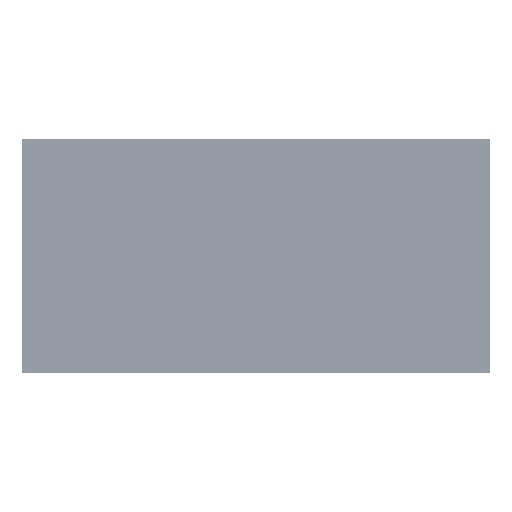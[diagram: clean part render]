
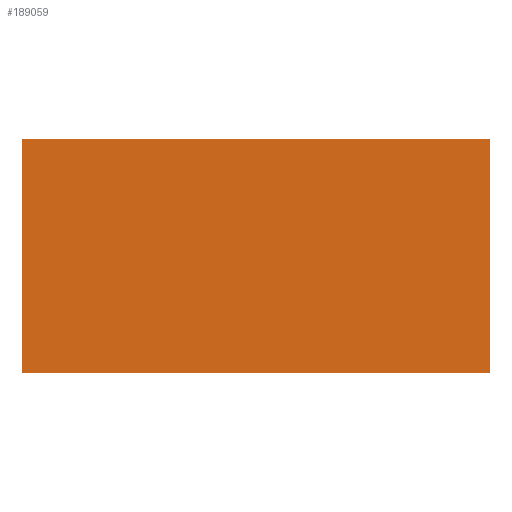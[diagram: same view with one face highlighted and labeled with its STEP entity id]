
A CAD part, front view. The second image highlights one B-rep face of the part: STEP entity #189059.
In plain terms, the highlighted planar face has unit normal (0, -1, 0).
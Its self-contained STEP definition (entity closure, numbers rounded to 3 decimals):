
#13860 = AXIS2_PLACEMENT_3D ( 'NONE', #78600, #78651, #78653 ) ;
#67178 = LINE ( 'NONE', #67241, #407212 ) ;
#67229 = LINE ( 'NONE', #67340, #407219 ) ;
#67241 = CARTESIAN_POINT ( 'NONE',  ( -300., -10., -125. ) ) ;
#67252 = LINE ( 'NONE', #67410, #407228 ) ;
#67258 = DIRECTION ( 'NONE',  ( 0., 0., 1. ) ) ;
#67340 = CARTESIAN_POINT ( 'NONE',  ( -300., -10., -125. ) ) ;
#67356 = DIRECTION ( 'NONE',  ( -1., 0., 0. ) ) ;
#67410 = CARTESIAN_POINT ( 'NONE',  ( 200., -10., -125. ) ) ;
#67428 = DIRECTION ( 'NONE',  ( 0., 0., -1. ) ) ;
#67460 = LINE ( 'NONE', #67473, #407244 ) ;
#67473 = CARTESIAN_POINT ( 'NONE',  ( -300., -10., 125. ) ) ;
#67478 = DIRECTION ( 'NONE',  ( 1., 0., 0. ) ) ;
#68807 = ORIENTED_EDGE ( 'NONE', *, *, #323353, .F. ) ;
#68812 = ORIENTED_EDGE ( 'NONE', *, *, #323365, .F. ) ;
#68816 = ORIENTED_EDGE ( 'NONE', *, *, #323374, .F. ) ;
#68820 = ORIENTED_EDGE ( 'NONE', *, *, #323379, .F. ) ;
#78600 = CARTESIAN_POINT ( 'NONE',  ( -300., -10., 125. ) ) ;
#78633 = FACE_OUTER_BOUND ( 'NONE', #425736, .T. ) ;
#78636 = PLANE ( 'NONE',  #13860 ) ;
#78651 = DIRECTION ( 'NONE',  ( 0., 1., 0. ) ) ;
#78653 = DIRECTION ( 'NONE',  ( 0., 0., 1. ) ) ;
#182998 = CARTESIAN_POINT ( 'NONE',  ( -300., -10., -125. ) ) ;
#183023 = CARTESIAN_POINT ( 'NONE',  ( 200., -10., -125. ) ) ;
#183027 = CARTESIAN_POINT ( 'NONE',  ( -300., -10., 125. ) ) ;
#183037 = CARTESIAN_POINT ( 'NONE',  ( 200., -10., 125. ) ) ;
#189059 = ADVANCED_FACE ( 'NONE', ( #78633 ), #78636, .F. ) ;
#323353 = EDGE_CURVE ( 'NONE', #359238, #359262, #67178, .T. ) ;
#323365 = EDGE_CURVE ( 'NONE', #359260, #359238, #67229, .T. ) ;
#323374 = EDGE_CURVE ( 'NONE', #359271, #359260, #67252, .T. ) ;
#323379 = EDGE_CURVE ( 'NONE', #359262, #359271, #67460, .T. ) ;
#359238 = VERTEX_POINT ( 'NONE', #182998 ) ;
#359260 = VERTEX_POINT ( 'NONE', #183023 ) ;
#359262 = VERTEX_POINT ( 'NONE', #183027 ) ;
#359271 = VERTEX_POINT ( 'NONE', #183037 ) ;
#407212 = VECTOR ( 'NONE', #67258, 1000. ) ;
#407219 = VECTOR ( 'NONE', #67356, 1000. ) ;
#407228 = VECTOR ( 'NONE', #67428, 1000. ) ;
#407244 = VECTOR ( 'NONE', #67478, 1000. ) ;
#425736 = EDGE_LOOP ( 'NONE', ( #68807, #68812, #68816, #68820 ) ) ;
